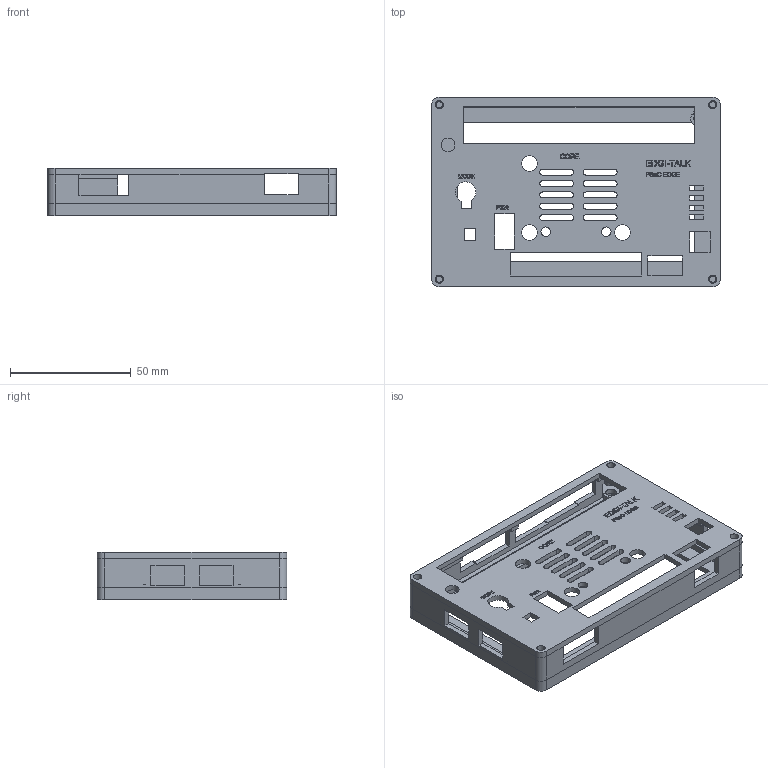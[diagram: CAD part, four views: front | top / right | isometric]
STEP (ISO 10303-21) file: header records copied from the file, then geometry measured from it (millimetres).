
FILE_DESCRIPTION(('FreeCAD Model'),'2;1');
FILE_NAME('Open CASCADE Shape Model','2026-10-26T00:52:12',('Author'),( ''),'Open CASCADE STEP processor 7.8','FreeCAD','Unknown');
FILE_SCHEMA(('AUTOMOTIVE_DESIGN { 1 0 10303 214 1 1 1 1 }'));
Length unit declared in the file: millimetre
Products named in the file (4): EdgiTalk_Display_Enclosure; 01 Midframe - display inserts from below; 02 Lid - print top face down; 03 Removable screen bezel - outer face down
Assembly tree (3 placements, depth 2):
  EdgiTalk_Display_Enclosure
    01 Midframe - display inserts from below
    02 Lid - print top face down
    03 Removable screen bezel - outer face down
Bounding box: 119.6 x 78.6 x 19.72 mm (x, y, z)
Volume: 35936.6 mm3; surface area: 38513.3 mm2
Topology: 3 solids, 3 shells, 864 faces, 2447 edges, 1642 vertices
Faces by surface type: plane 481, extrusion 288, cylinder 95
Full cylindrical faces by diameter (mm): 1.4 x4, 1.6 x4, 2.3 x4, 2.6 x4, 3.4 x4, 4 x2, 4.4 x4, 5.6 x1, 6.4 x3
Entity records: 29815 total; most frequent: CARTESIAN_POINT 8008, ORIENTED_EDGE 4894, DIRECTION 3552, EDGE_CURVE 2447, VECTOR 1926, VERTEX_POINT 1642, LINE 1638, FACE_BOUND 1005
